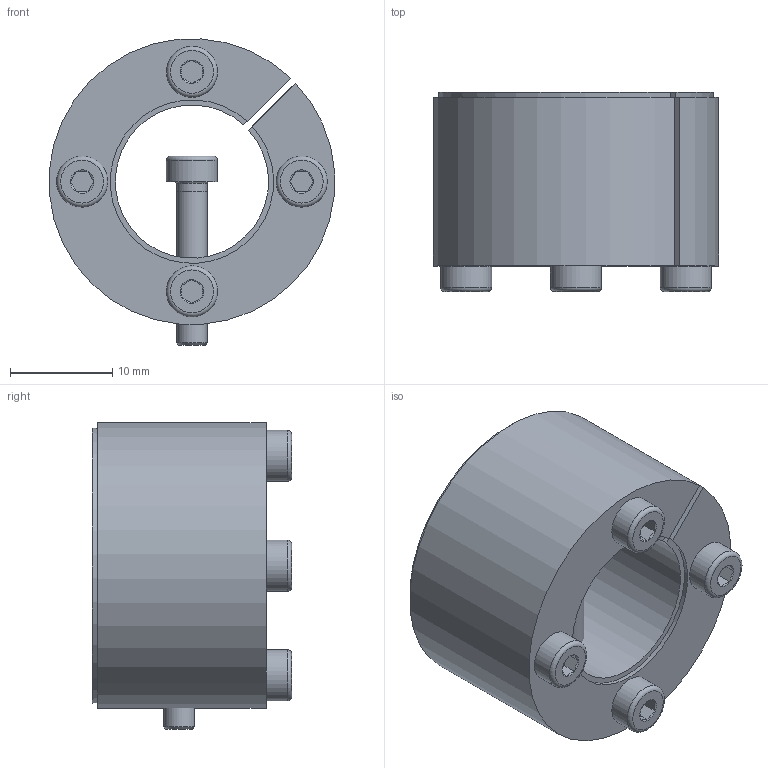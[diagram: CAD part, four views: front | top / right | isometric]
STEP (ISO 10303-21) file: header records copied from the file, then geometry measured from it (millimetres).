
FILE_DESCRIPTION( ( 'Unknown' ), '1' );
FILE_NAME( 'C:/Dokumente und Einstellungen/Sven/Desktop/homepage/cad - homepage/KBS61/KBS 61 - 15 x 28.stp', 'Unknown', ( 'Unknown' ), ( 'Unknown' ), 'XStep 1.0', 'Unknown', ' ' );
FILE_SCHEMA( ( 'automotive_design' ) );
Length unit declared in the file: millimetre
Products named in the file (3): Assem1; KBS 61 - 15 x 28; ISO EN DIN 4762 M3x16
Bounding box: 27.92 x 19.5 x 29.97 mm (x, y, z)
Volume: 14522 mm3; surface area: 9084.1 mm2
Topology: 7 solids, 7 shells, 153 faces, 295 edges, 176 vertices
Faces by surface type: plane 72, cone 39, cylinder 32, torus 10
Full cylindrical faces by diameter (mm): 2.98 x5, 3 x18, 5 x5
Entity records: 1174 total; most frequent: CARTESIAN_POINT 205, DIRECTION 180, ORIENTED_EDGE 134, AXIS2_PLACEMENT_3D 78, EDGE_CURVE 67, EDGE_LOOP 62, FACE_OUTER_BOUND 49, VERTEX_POINT 47
